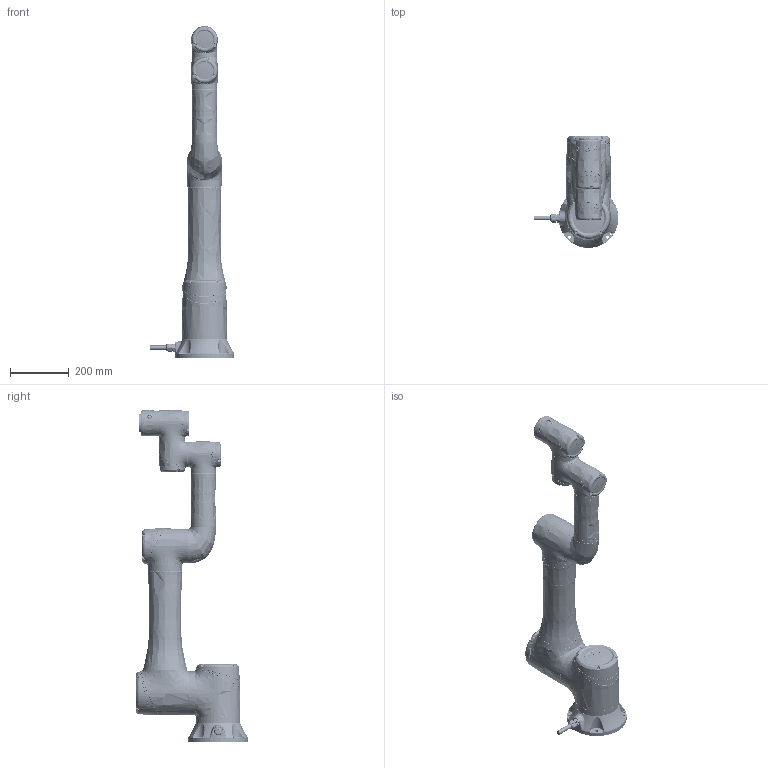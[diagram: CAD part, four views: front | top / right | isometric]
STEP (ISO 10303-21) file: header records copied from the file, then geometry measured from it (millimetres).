
FILE_DESCRIPTION(/* description */ (''),/* implementation_level */ '2;1');
FILE_NAME(/* name */ 'Robot arm_TM16X_HW3.2_3D v2.step',/* time_stamp */ '2023-04-18T15:50:40+02:00',/* author */ (''),/* organization */ (''),/* preprocessor_version */ 'ST-DEVELOPER v19.2',/* originating_system */ 'Autodesk Translation Framework v12.4.0.73',/* authorisation */ '');
FILE_SCHEMA (('AUTOMOTIVE_DESIGN { 1 0 10303 214 3 1 1 }'));
Products named in the file (9): Robot arm_TM16X_HW3.2_3D; BASE-TM16; J700-TM16; ARM1-TM16; J400-TM16; JOINT_L; J100-TM16; ARM2-TM16; IOMX
Assembly tree (11 placements, depth 2):
  Robot arm_TM16X_HW3.2_3D
    BASE-TM16
    J700-TM16  x2
    ARM1-TM16
    J400-TM16
    JOINT_L
    J100-TM16  x3
    ARM2-TM16
    IOMX
Bounding box: 287.26 x 379.4 x 1127.43 mm (x, y, z)
Volume: 9307426.1 mm3; surface area: 1828615.3 mm2
Topology: 17 solids, 36 shells, 7045 faces, 17340 edges, 10928 vertices
Faces by surface type: bspline 2225, cylinder 2115, plane 1999, cone 363, torus 321, sphere 22
Full cylindrical faces by diameter (mm): 0.8 x24, 2 x7, 2.5 x77, 3 x30, 3.4 x8, 3.5 x56, 4.2 x8, 4.5 x24, 5 x6, 5.1 x20, 5.25 x4, 5.5 x68, 5.9 x48, 6 x13, 6.7 x1, 7 x1, 7.3 x3, 7.5 x16, 8 x6, 8.5 x4, 9 x4, 9.5 x32, 10 x11, 10.5 x4, 12 x6, 12.3 x3, 14 x3, 14.2 x3, 15 x3, 17.1 x1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
Entity records: 345104 total; most frequent: CARTESIAN_POINT 237222, ORIENTED_EDGE 24050, DIRECTION 19749, EDGE_CURVE 12025, AXIS2_PLACEMENT_3D 7822, VERTEX_POINT 7643, EDGE_LOOP 5528, FACE_OUTER_BOUND 4874
